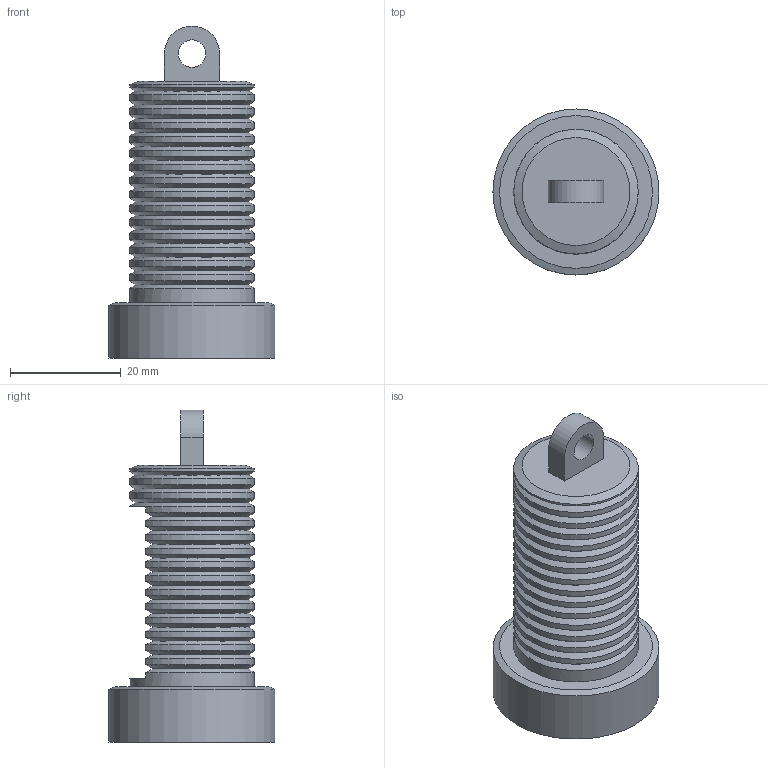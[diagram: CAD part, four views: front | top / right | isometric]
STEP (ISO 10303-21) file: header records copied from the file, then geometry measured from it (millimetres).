
FILE_DESCRIPTION(('FreeCAD Model'),'2;1');
FILE_NAME('Open CASCADE Shape Model','2026-09-13T15:01:58',('FreeCAD'),( 'FreeCAD'),'Open CASCADE STEP processor 7.8','FreeCAD','Unknown');
FILE_SCHEMA(('AUTOMOTIVE_DESIGN { 1 0 10303 214 1 1 1 1 }'));
Products named in the file (1): Open CASCADE STEP translator 7.8 1
Bounding box: 30 x 30 x 60 mm (x, y, z)
Volume: 20346.6 mm3; surface area: 7767 mm2
Topology: 1 solids, 1 shells, 3863 faces, 11273 edges, 7493 vertices
Faces by surface type: plane 3731, cone 56, extrusion 56, cylinder 20
Full cylindrical faces by diameter (mm): 5 x1, 22.5 x5, 27.3 x1, 30 x1
Entity records: 125602 total; most frequent: CARTESIAN_POINT 23274, ORIENTED_EDGE 22546, DIRECTION 19030, EDGE_CURVE 11273, VECTOR 11020, LINE 10964, VERTEX_POINT 7493, AXIS2_PLACEMENT_3D 4005
